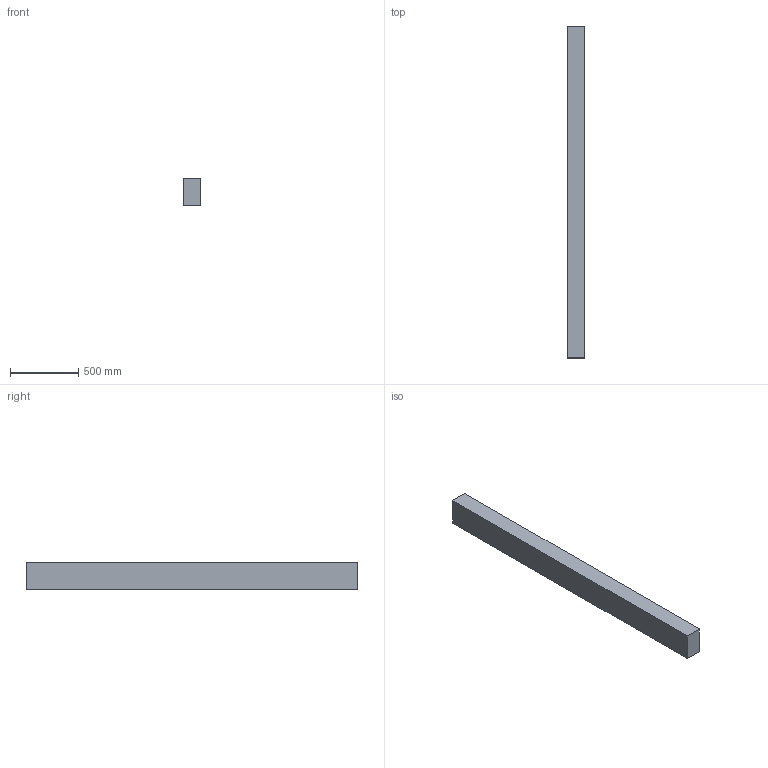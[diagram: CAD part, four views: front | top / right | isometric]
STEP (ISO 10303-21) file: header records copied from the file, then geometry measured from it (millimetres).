
FILE_DESCRIPTION(/* description */ (''),/* implementation_level */ '2;1');
FILE_NAME(/* name */ '5x8x96',/* time_stamp */ '2024-09-20T11:46:37-05:00',/* author */ (''),/* organization */ (''),/* preprocessor_version */ 'ST-DEVELOPER v19.2',/* originating_system */ 'Rhino 8.5',/* authorisation */ '');
FILE_SCHEMA (('CONFIG_CONTROL_DESIGN'));
Length unit declared in the file: inch
Products named in the file (1): Document
Bounding box: 127 x 2438.4 x 203.2 mm (x, y, z)
Volume: 62926325.8 mm3; surface area: 1661932.2 mm2
Topology: 1 solids, 1 shells, 6 faces, 12 edges, 8 vertices
Faces by surface type: plane 6
Entity records: 226 total; most frequent: CARTESIAN_POINT 40, ORIENTED_EDGE 24, EDGE_CURVE 12, B_SPLINE_CURVE_WITH_KNOTS 12, DIRECTION 10, VERTEX_POINT 8, AXIS2_PLACEMENT_3D 8, ORGANIZATION 7
